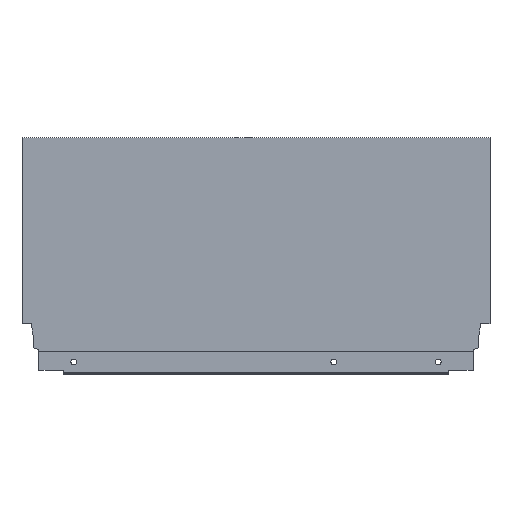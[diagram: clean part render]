
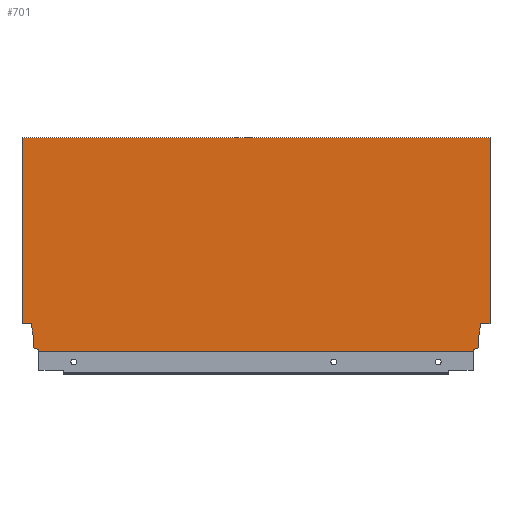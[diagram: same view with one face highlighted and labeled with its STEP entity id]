
A CAD part, top view. The second image highlights one B-rep face of the part: STEP entity #701.
In plain terms, the highlighted planar face has unit normal (0, 0, 1).
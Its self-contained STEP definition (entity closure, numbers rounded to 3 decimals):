
#23 = CARTESIAN_POINT ( 'NONE',  ( -8.9, 10.765, 7.5 ) ) ;
#27 = CARTESIAN_POINT ( 'NONE',  ( -347.996, 0., 7.5 ) ) ;
#28 = CARTESIAN_POINT ( 'NONE',  ( -13.004, 0., 7.5 ) ) ;
#30 = CARTESIAN_POINT ( 'NONE',  ( -13.004, 1.146, 7.5 ) ) ;
#31 = CARTESIAN_POINT ( 'NONE',  ( -353.94, 21.2, 7.5 ) ) ;
#58 = CARTESIAN_POINT ( 'NONE',  ( -361., 21.2, 7.5 ) ) ;
#63 = PLANE ( 'NONE',  #206 ) ;
#71 = DIRECTION ( 'NONE',  ( 1., 0., 0. ) ) ;
#72 = DIRECTION ( 'NONE',  ( 0., 0., 1. ) ) ;
#80 = CARTESIAN_POINT ( 'NONE',  ( -8.9, 2.64, 7.5 ) ) ;
#87 = CARTESIAN_POINT ( 'NONE',  ( 0., 164.7, 7.5 ) ) ;
#91 = CARTESIAN_POINT ( 'NONE',  ( -361., 0., 7.5 ) ) ;
#108 = EDGE_CURVE ( 'NONE', #760, #334, #1156, .T. ) ;
#110 = EDGE_CURVE ( 'NONE', #1526, #737, #1146, .T. ) ;
#113 = EDGE_CURVE ( 'NONE', #342, #1526, #1148, .T. ) ;
#114 = EDGE_CURVE ( 'NONE', #328, #740, #1138, .T. ) ;
#115 = EDGE_CURVE ( 'NONE', #740, #331, #1151, .T. ) ;
#117 = EDGE_CURVE ( 'NONE', #331, #346, #1139, .T. ) ;
#160 = EDGE_CURVE ( 'NONE', #1525, #338, #1035, .T. ) ;
#162 = EDGE_CURVE ( 'NONE', #332, #339, #1025, .T. ) ;
#165 = EDGE_CURVE ( 'NONE', #338, #334, #1019, .T. ) ;
#167 = EDGE_CURVE ( 'NONE', #760, #328, #1015, .T. ) ;
#206 = AXIS2_PLACEMENT_3D ( 'NONE', #91, #72, #71 ) ;
#235 = EDGE_CURVE ( 'NONE', #342, #341, #976, .T. ) ;
#237 = EDGE_CURVE ( 'NONE', #339, #341, #978, .T. ) ;
#238 = EDGE_CURVE ( 'NONE', #737, #1525, #965, .T. ) ;
#263 = EDGE_CURVE ( 'NONE', #346, #332, #945, .T. ) ;
#317 = CARTESIAN_POINT ( 'NONE',  ( -7.06, 21.2, 7.5 ) ) ;
#328 = VERTEX_POINT ( 'NONE', #87 ) ;
#331 = VERTEX_POINT ( 'NONE', #317 ) ;
#332 = VERTEX_POINT ( 'NONE', #80 ) ;
#334 = VERTEX_POINT ( 'NONE', #58 ) ;
#338 = VERTEX_POINT ( 'NONE', #31 ) ;
#339 = VERTEX_POINT ( 'NONE', #30 ) ;
#341 = VERTEX_POINT ( 'NONE', #28 ) ;
#342 = VERTEX_POINT ( 'NONE', #27 ) ;
#346 = VERTEX_POINT ( 'NONE', #23 ) ;
#485 = CARTESIAN_POINT ( 'NONE',  ( -352.1, 10.765, 7.5 ) ) ;
#497 = CARTESIAN_POINT ( 'NONE',  ( 0., 21.2, 7.5 ) ) ;
#503 = CARTESIAN_POINT ( 'NONE',  ( -352.1, 2.64, 7.5 ) ) ;
#531 = CARTESIAN_POINT ( 'NONE',  ( -361., 164.7, 7.5 ) ) ;
#540 = CARTESIAN_POINT ( 'NONE',  ( -347.996, 1.146, 7.5 ) ) ;
#554 = DIRECTION ( 'NONE',  ( 0., 1., 0. ) ) ;
#555 = CARTESIAN_POINT ( 'NONE',  ( -352.1, 10.765, 7.5 ) ) ;
#556 = DIRECTION ( 'NONE',  ( 0., -1., 0. ) ) ;
#557 = CARTESIAN_POINT ( 'NONE',  ( -13.004, 1.146, 7.5 ) ) ;
#564 = DIRECTION ( 'NONE',  ( 1., 0., 0. ) ) ;
#566 = CARTESIAN_POINT ( 'NONE',  ( -361., 0., 7.5 ) ) ;
#624 = DIRECTION ( 'NONE',  ( 0., -1., 0. ) ) ;
#626 = CARTESIAN_POINT ( 'NONE',  ( -8.9, 10.765, 7.5 ) ) ;
#701 = ADVANCED_FACE ( 'NONE', ( #1465 ), #63, .T. ) ;
#737 = VERTEX_POINT ( 'NONE', #503 ) ;
#740 = VERTEX_POINT ( 'NONE', #497 ) ;
#760 = VERTEX_POINT ( 'NONE', #531 ) ;
#767 = DIRECTION ( 'NONE',  ( -1., 0., 0. ) ) ;
#770 = CARTESIAN_POINT ( 'NONE',  ( -366., 21.2, 7.5 ) ) ;
#775 = DIRECTION ( 'NONE',  ( 1., 0., 0. ) ) ;
#776 = CARTESIAN_POINT ( 'NONE',  ( -361., 164.7, 7.5 ) ) ;
#779 = CARTESIAN_POINT ( 'NONE',  ( -7.06, 21.2, 7.5 ) ) ;
#781 = DIRECTION ( 'NONE',  ( -1., 0., 0. ) ) ;
#782 = DIRECTION ( 'NONE',  ( -0.174, -0.985, 0. ) ) ;
#784 = DIRECTION ( 'NONE',  ( 0., -1., 0. ) ) ;
#785 = CARTESIAN_POINT ( 'NONE',  ( 0., 0., 7.5 ) ) ;
#787 = DIRECTION ( 'NONE',  ( 0., 1., 0. ) ) ;
#790 = CARTESIAN_POINT ( 'NONE',  ( 0., 21.2, 7.5 ) ) ;
#796 = CARTESIAN_POINT ( 'NONE',  ( -347.996, 1.146, 7.5 ) ) ;
#797 = DIRECTION ( 'NONE',  ( -0.94, 0.342, 0. ) ) ;
#802 = DIRECTION ( 'NONE',  ( 0., -1., 0. ) ) ;
#803 = CARTESIAN_POINT ( 'NONE',  ( -352.1, 2.64, 7.5 ) ) ;
#807 = CARTESIAN_POINT ( 'NONE',  ( -361., 0., 7.5 ) ) ;
#814 = DIRECTION ( 'NONE',  ( -0.94, -0.342, 0. ) ) ;
#817 = CARTESIAN_POINT ( 'NONE',  ( -8.9, 2.64, 7.5 ) ) ;
#822 = DIRECTION ( 'NONE',  ( -0.174, 0.985, 0. ) ) ;
#823 = CARTESIAN_POINT ( 'NONE',  ( -353.94, 21.2, 7.5 ) ) ;
#945 = LINE ( 'NONE', #626, #950 ) ;
#950 = VECTOR ( 'NONE', #624, 1000. ) ;
#964 = VECTOR ( 'NONE', #554, 1000. ) ;
#965 = LINE ( 'NONE', #555, #964 ) ;
#970 = VECTOR ( 'NONE', #564, 1000. ) ;
#976 = LINE ( 'NONE', #566, #970 ) ;
#977 = VECTOR ( 'NONE', #556, 1000. ) ;
#978 = LINE ( 'NONE', #557, #977 ) ;
#1014 = VECTOR ( 'NONE', #775, 1000. ) ;
#1015 = LINE ( 'NONE', #776, #1014 ) ;
#1018 = VECTOR ( 'NONE', #767, 1000. ) ;
#1019 = LINE ( 'NONE', #770, #1018 ) ;
#1024 = VECTOR ( 'NONE', #814, 1000. ) ;
#1025 = LINE ( 'NONE', #817, #1024 ) ;
#1035 = LINE ( 'NONE', #823, #1040 ) ;
#1040 = VECTOR ( 'NONE', #822, 1000. ) ;
#1132 = VECTOR ( 'NONE', #782, 1000. ) ;
#1136 = VECTOR ( 'NONE', #781, 1000. ) ;
#1137 = VECTOR ( 'NONE', #784, 1000. ) ;
#1138 = LINE ( 'NONE', #785, #1137 ) ;
#1139 = LINE ( 'NONE', #779, #1132 ) ;
#1140 = VECTOR ( 'NONE', #787, 1000. ) ;
#1146 = LINE ( 'NONE', #803, #1149 ) ;
#1148 = LINE ( 'NONE', #796, #1140 ) ;
#1149 = VECTOR ( 'NONE', #797, 1000. ) ;
#1150 = VECTOR ( 'NONE', #802, 1000. ) ;
#1151 = LINE ( 'NONE', #790, #1136 ) ;
#1156 = LINE ( 'NONE', #807, #1150 ) ;
#1176 = EDGE_LOOP ( 'NONE', ( #1430, #1398, #1285, #1399, #1350, #1328, #1329, #1330, #1331, #1332, #1333, #1334, #1335, #1336 ) ) ;
#1285 = ORIENTED_EDGE ( 'NONE', *, *, #160, .F. ) ;
#1328 = ORIENTED_EDGE ( 'NONE', *, *, #113, .F. ) ;
#1329 = ORIENTED_EDGE ( 'NONE', *, *, #235, .T. ) ;
#1330 = ORIENTED_EDGE ( 'NONE', *, *, #237, .F. ) ;
#1331 = ORIENTED_EDGE ( 'NONE', *, *, #162, .F. ) ;
#1332 = ORIENTED_EDGE ( 'NONE', *, *, #263, .F. ) ;
#1333 = ORIENTED_EDGE ( 'NONE', *, *, #117, .F. ) ;
#1334 = ORIENTED_EDGE ( 'NONE', *, *, #115, .F. ) ;
#1335 = ORIENTED_EDGE ( 'NONE', *, *, #114, .F. ) ;
#1336 = ORIENTED_EDGE ( 'NONE', *, *, #167, .F. ) ;
#1350 = ORIENTED_EDGE ( 'NONE', *, *, #110, .F. ) ;
#1398 = ORIENTED_EDGE ( 'NONE', *, *, #165, .F. ) ;
#1399 = ORIENTED_EDGE ( 'NONE', *, *, #238, .F. ) ;
#1430 = ORIENTED_EDGE ( 'NONE', *, *, #108, .T. ) ;
#1465 = FACE_OUTER_BOUND ( 'NONE', #1176, .T. ) ;
#1525 = VERTEX_POINT ( 'NONE', #485 ) ;
#1526 = VERTEX_POINT ( 'NONE', #540 ) ;
